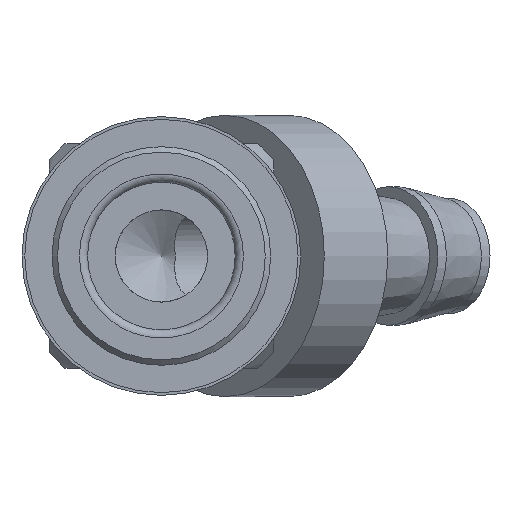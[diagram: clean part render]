
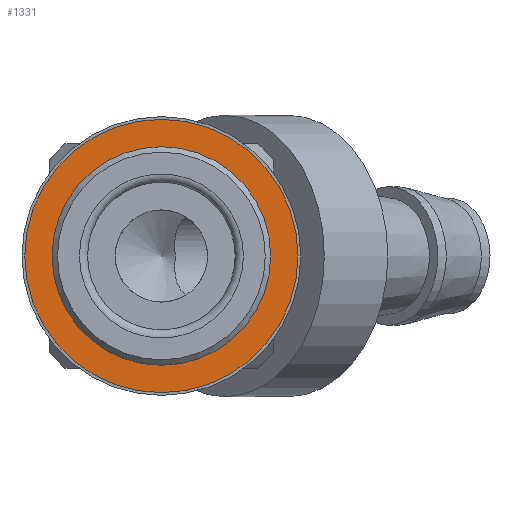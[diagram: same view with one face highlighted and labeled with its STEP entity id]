
A CAD part, left-side view. The second image highlights one B-rep face of the part: STEP entity #1331.
In plain terms, the highlighted planar face has unit normal (-1, 0, 0).
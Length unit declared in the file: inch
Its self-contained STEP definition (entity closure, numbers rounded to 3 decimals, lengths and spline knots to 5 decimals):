
#315=ORIENTED_EDGE('',*,*,#662,.F.);
#316=ORIENTED_EDGE('',*,*,#661,.T.);
#661=EDGE_CURVE('',#824,#824,#933,.T.);
#662=EDGE_CURVE('',#825,#825,#934,.T.);
#824=VERTEX_POINT('',#2282);
#825=VERTEX_POINT('',#2285);
#933=CIRCLE('',#1485,0.268);
#934=CIRCLE('',#1487,0.335);
#1000=EDGE_LOOP('',(#315));
#1001=EDGE_LOOP('',(#316));
#1136=FACE_BOUND('',#1000,.T.);
#1137=FACE_BOUND('',#1001,.T.);
#1256=PLANE('',#1486);
#1331=ADVANCED_FACE('',(#1136,#1137),#1256,.F.);
#1485=AXIS2_PLACEMENT_3D('',#2281,#1754,#1755);
#1486=AXIS2_PLACEMENT_3D('',#2283,#1756,#1757);
#1487=AXIS2_PLACEMENT_3D('',#2284,#1758,#1759);
#1754=DIRECTION('',(1.,0.,0.));
#1755=DIRECTION('',(0.,0.,-1.));
#1756=DIRECTION('',(1.,0.,0.));
#1757=DIRECTION('',(0.,0.,-1.));
#1758=DIRECTION('',(1.,0.,0.));
#1759=DIRECTION('',(0.,0.,-1.));
#2281=CARTESIAN_POINT('',(0.,0.,0.));
#2282=CARTESIAN_POINT('',(0.,0.,-0.268));
#2283=CARTESIAN_POINT('',(0.,0.268,0.));
#2284=CARTESIAN_POINT('',(0.,0.,0.));
#2285=CARTESIAN_POINT('',(0.,0.,-0.335));
